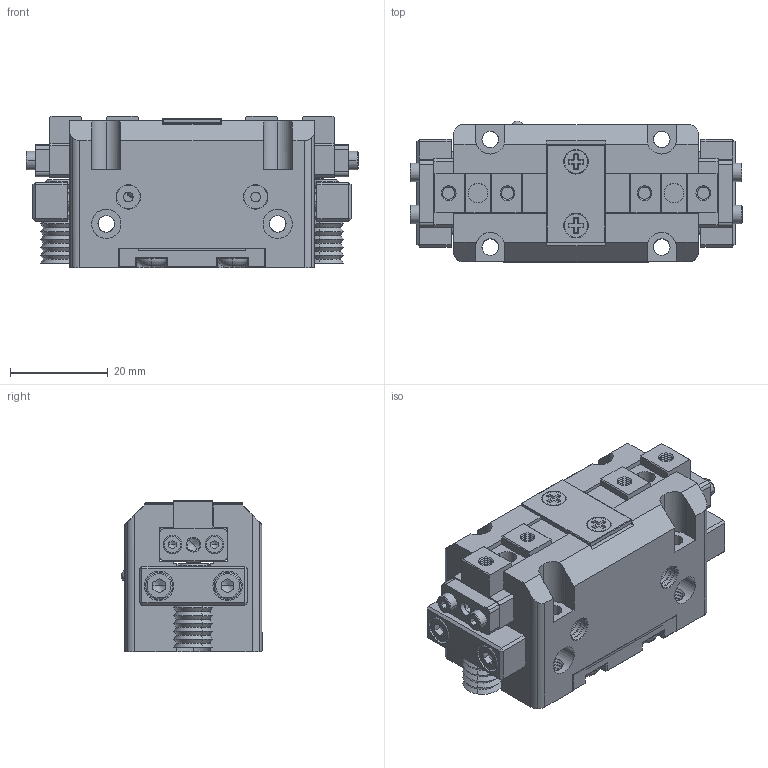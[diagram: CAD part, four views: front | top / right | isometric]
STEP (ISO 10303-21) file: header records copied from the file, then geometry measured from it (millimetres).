
FILE_DESCRIPTION (( 'STEP AP214' ), '1' );
FILE_NAME ('ST20.STEP', '2025-10-23T10:06:08', ( '' ), ( '' ), 'SwSTEP 2.0', 'SolidWorks 2024', '' );
FILE_SCHEMA (( 'AUTOMOTIVE_DESIGN' ));
Length unit declared in the file: millimetre
Products named in the file (1): ST20
Bounding box: 67.8 x 28.93 x 31 mm (x, y, z)
Volume: 36849.8 mm3; surface area: 25489.6 mm2
Topology: 35 solids, 35 shells, 1763 faces, 4232 edges, 2546 vertices
Faces by surface type: cone 832, plane 487, cylinder 392, torus 48, sphere 4
Entity records: 52014 total; most frequent: CARTESIAN_POINT 10377, DIRECTION 9166, ORIENTED_EDGE 8364, EDGE_CURVE 4182, AXIS2_PLACEMENT_3D 3536, VERTEX_POINT 2544, VECTOR 2094, LINE 2094
